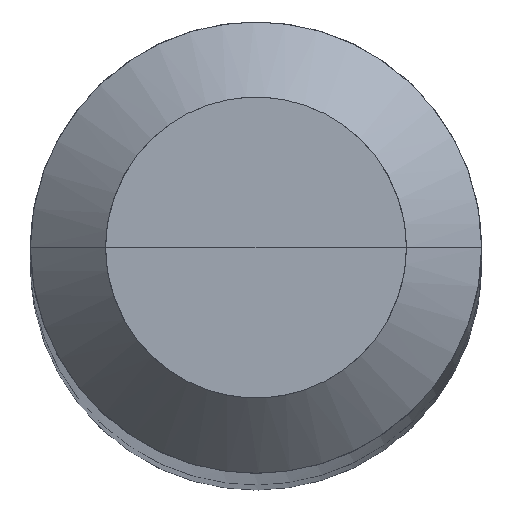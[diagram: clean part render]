
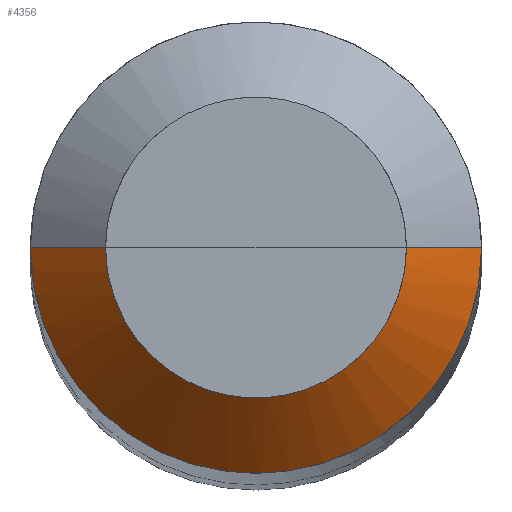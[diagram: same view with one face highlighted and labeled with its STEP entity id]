
A CAD part, top view. The second image highlights one B-rep face of the part: STEP entity #4356.
In plain terms, the highlighted free-form (B-spline) face has degree [1, 2] with [2, 5] control points.
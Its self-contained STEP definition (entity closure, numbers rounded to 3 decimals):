
#4091=CARTESIAN_POINT('',(1.5,0.0,43.5));
#4095=CARTESIAN_POINT('',(-1.5,0.0,43.5));
#4096=CARTESIAN_POINT('',(1.0,0.0,44.0));
#4100=CARTESIAN_POINT('',(-1.0,0.0,44.0));
#4102=CARTESIAN_POINT('',(-1.5,-1.5,43.5));
#4103=CARTESIAN_POINT('',(0.0,-1.5,43.5));
#4104=CARTESIAN_POINT('',(1.5,-1.5,43.5));
#4105=CARTESIAN_POINT('',(-1.0,-1.0,44.0));
#4106=CARTESIAN_POINT('',(0.0,-1.0,44.0));
#4107=CARTESIAN_POINT('',(1.0,-1.0,44.0));
#4337=(
BOUNDED_SURFACE()
B_SPLINE_SURFACE(1,2,(
(#4095,#4102,#4103,#4104,#4091),
(#4100,#4105,#4106,#4107,#4096)
), .UNSPECIFIED.,.F.,.F.,.F.)
B_SPLINE_SURFACE_WITH_KNOTS((2,2),(3,2,3),(
0.0,1.0),(
0.0,0.5,1.0), .UNSPECIFIED.)
GEOMETRIC_REPRESENTATION_ITEM()
RATIONAL_B_SPLINE_SURFACE(((1.0,0.707,1.0,0.707,1.0),
(1.0,0.707,1.0,0.707,1.0)
))
REPRESENTATION_ITEM('')
SURFACE()
);
#4338=(
BOUNDED_CURVE()
B_SPLINE_CURVE(2,(#4091,#4104,#4103,#4102,#4095),.UNSPECIFIED.,.F.,.F.)
B_SPLINE_CURVE_WITH_KNOTS((3,2,3),
(0.0,0.5,1.0),.UNSPECIFIED.)
CURVE()
GEOMETRIC_REPRESENTATION_ITEM()
RATIONAL_B_SPLINE_CURVE((1.0,0.707,1.0,0.707,1.0))
REPRESENTATION_ITEM('')
);
#4339=(
BOUNDED_CURVE()
B_SPLINE_CURVE(1,(#4095,#4100),.UNSPECIFIED.,.F.,.F.)
B_SPLINE_CURVE_WITH_KNOTS((2,2),
(0.0,1.0),.UNSPECIFIED.)
CURVE()
GEOMETRIC_REPRESENTATION_ITEM()
RATIONAL_B_SPLINE_CURVE((1.0,1.0))
REPRESENTATION_ITEM('')
);
#4340=(
BOUNDED_CURVE()
B_SPLINE_CURVE(2,(#4100,#4105,#4106,#4107,#4096),.UNSPECIFIED.,.F.,.F.)
B_SPLINE_CURVE_WITH_KNOTS((3,2,3),
(0.0,0.5,1.0),.UNSPECIFIED.)
CURVE()
GEOMETRIC_REPRESENTATION_ITEM()
RATIONAL_B_SPLINE_CURVE((1.0,0.707,1.0,0.707,1.0))
REPRESENTATION_ITEM('')
);
#4341=(
BOUNDED_CURVE()
B_SPLINE_CURVE(1,(#4096,#4091),.UNSPECIFIED.,.F.,.F.)
B_SPLINE_CURVE_WITH_KNOTS((2,2),
(0.0,1.0),.UNSPECIFIED.)
CURVE()
GEOMETRIC_REPRESENTATION_ITEM()
RATIONAL_B_SPLINE_CURVE((1.0,1.0))
REPRESENTATION_ITEM('')
);
#4342=VERTEX_POINT('',#4091);
#4343=VERTEX_POINT('',#4095);
#4344=VERTEX_POINT('',#4096);
#4345=VERTEX_POINT('',#4100);
#4346=EDGE_CURVE('',#4342,#4343,#4338,.T.);
#4347=EDGE_CURVE('',#4343,#4345,#4339,.T.);
#4348=EDGE_CURVE('',#4345,#4344,#4340,.T.);
#4349=EDGE_CURVE('',#4344,#4342,#4341,.T.);
#4350=ORIENTED_EDGE('',*,*,#4346,.T.);
#4351=ORIENTED_EDGE('',*,*,#4347,.T.);
#4352=ORIENTED_EDGE('',*,*,#4348,.T.);
#4353=ORIENTED_EDGE('',*,*,#4349,.T.);
#4354=EDGE_LOOP('',(#4350,#4351,#4352,#4353));
#4355=FACE_OUTER_BOUND('',#4354,.T.);
#4356=ADVANCED_FACE('',(#4355),#4337,.T.);
